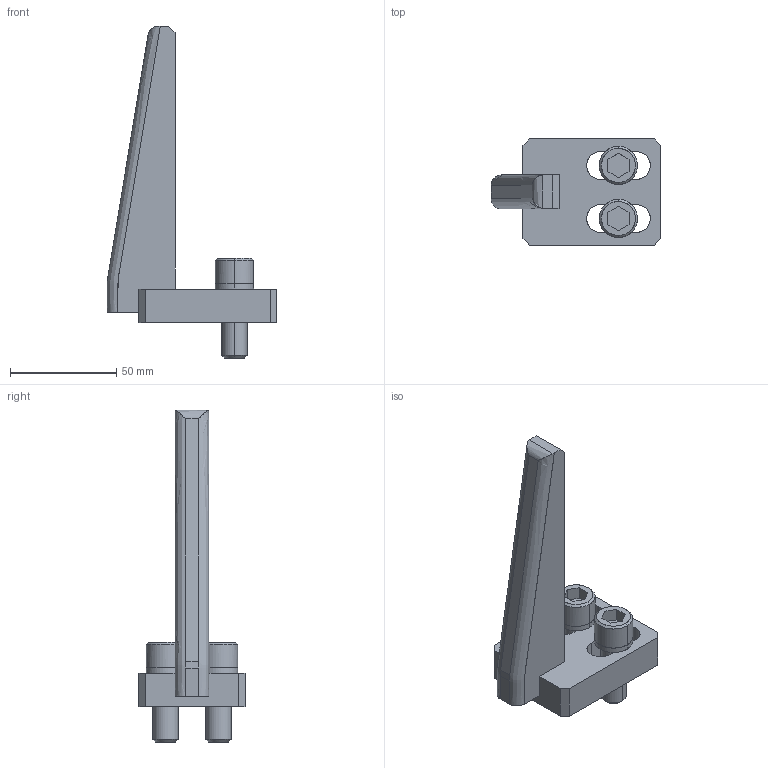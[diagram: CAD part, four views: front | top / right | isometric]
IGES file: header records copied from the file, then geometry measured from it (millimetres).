
Global section: file name: E:\UnigraphicsGraphicData\MISUMI_PRESS-PARTS\IGES\3d_ngga-140-20-20_01476_r00.igs; native system: NX V5.0; preprocessor: UGS NX IGES V5.0; author: MISUMI; date: 20110105.162028; units: millimetre
Bounding box: 80 x 50 x 156.5 mm (x, y, z)
Surface area: 28743.4 mm2 (no closed solid volume)
Topology: 0 solids, 0 shells, 103 faces, 660 edges, 660 vertices
Faces by surface type: bspline 103
